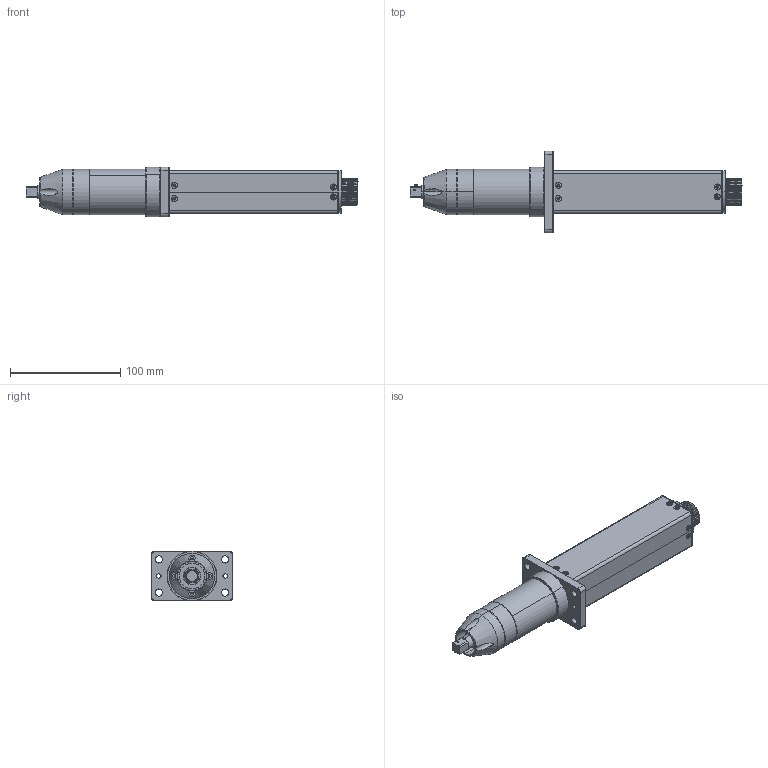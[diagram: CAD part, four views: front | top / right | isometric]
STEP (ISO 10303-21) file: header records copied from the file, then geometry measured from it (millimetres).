
FILE_DESCRIPTION (( 'STEP AP203' ), '1' );
FILE_NAME ('EC,ECT50804-R,50904-R.STEP', '2021-12-23T06:01:44', ( '' ), ( '' ), 'SwSTEP 2.0', 'SolidWorks 2020', '' );
FILE_SCHEMA (( 'CONFIG_CONTROL_DESIGN' ));
Length unit declared in the file: millimetre
Products named in the file (1): EC,ECT50804-R,50904-R
Bounding box: 300.55 x 74 x 45 mm (x, y, z)
Surface area: 56291.3 mm2 (no closed solid volume)
Topology: 0 solids, 53 shells, 670 faces, 2365 edges, 1682 vertices
Faces by surface type: plane 309, cylinder 195, cone 157, bspline 5, torus 4
Entity records: 28803 total; most frequent: CARTESIAN_POINT 9756, DIRECTION 3722, ORIENTED_EDGE 3614, EDGE_CURVE 2357, VERTEX_POINT 1681, AXIS2_PLACEMENT_3D 1361, LINE 1000, VECTOR 1000
